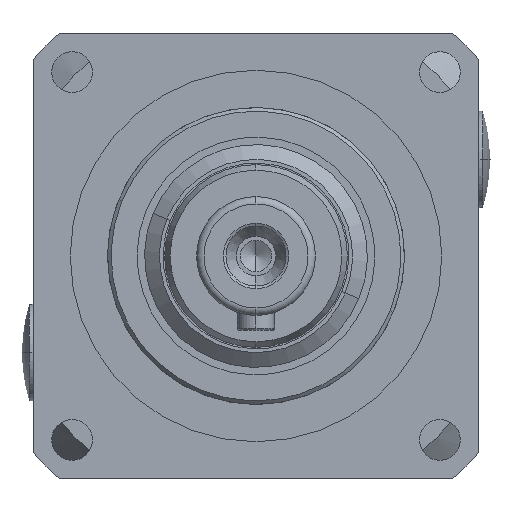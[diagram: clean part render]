
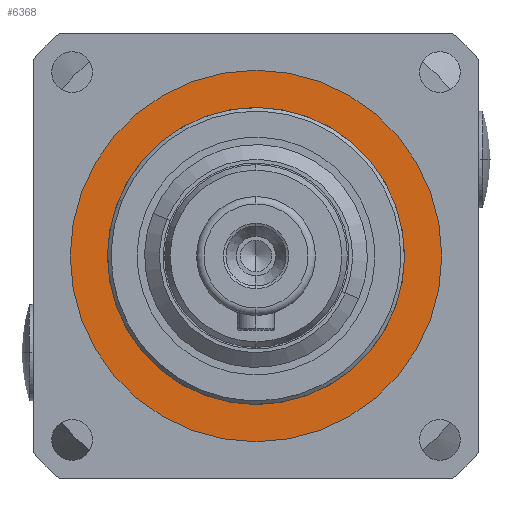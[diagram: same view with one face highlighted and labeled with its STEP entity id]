
A CAD part, left-side view. The second image highlights one B-rep face of the part: STEP entity #6368.
In plain terms, the highlighted planar face has unit normal (-1, 0, 0).
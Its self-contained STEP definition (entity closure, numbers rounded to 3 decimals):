
#5 = FACE_OUTER_BOUND ( 'NONE', #6980, .T. ) ;
#97 = CARTESIAN_POINT ( 'NONE',  ( -42., 0., 20. ) ) ;
#135 = FACE_BOUND ( 'NONE', #10961, .T. ) ;
#530 = DIRECTION ( 'NONE',  ( -1., 0., 0. ) ) ;
#743 = ORIENTED_EDGE ( 'NONE', *, *, #12422, .T. ) ;
#769 = ORIENTED_EDGE ( 'NONE', *, *, #12897, .T. ) ;
#844 = CARTESIAN_POINT ( 'NONE',  ( -42., 0., -25. ) ) ;
#1085 = ORIENTED_EDGE ( 'NONE', *, *, #2111, .F. ) ;
#1150 = ORIENTED_EDGE ( 'NONE', *, *, #10960, .F. ) ;
#1304 = VERTEX_POINT ( 'NONE', #844 ) ;
#1553 = CIRCLE ( 'NONE', #12822, 20. ) ;
#2076 = AXIS2_PLACEMENT_3D ( 'NONE', #11492, #11376, #11346 ) ;
#2111 = EDGE_CURVE ( 'NONE', #10514, #10002, #1553, .T. ) ;
#2175 = AXIS2_PLACEMENT_3D ( 'NONE', #11528, #4712, #12588 ) ;
#2444 = AXIS2_PLACEMENT_3D ( 'NONE', #9478, #2662, #10643 ) ;
#2662 = DIRECTION ( 'NONE',  ( -1., 0., 0. ) ) ;
#2664 = VERTEX_POINT ( 'NONE', #13453 ) ;
#4712 = DIRECTION ( 'NONE',  ( -1., 0., 0. ) ) ;
#5209 = CIRCLE ( 'NONE', #10900, 20. ) ;
#5960 = DIRECTION ( 'NONE',  ( -1., 0., 0. ) ) ;
#6007 = CIRCLE ( 'NONE', #2175, 25. ) ;
#6368 = ADVANCED_FACE ( 'NONE', ( #135, #5 ), #11425, .T. ) ;
#6980 = EDGE_LOOP ( 'NONE', ( #769, #743 ) ) ;
#7209 = CARTESIAN_POINT ( 'NONE',  ( -42., 0., 0. ) ) ;
#7291 = DIRECTION ( 'NONE',  ( 0., 0., 1. ) ) ;
#7665 = CARTESIAN_POINT ( 'NONE',  ( -42., 0., 0. ) ) ;
#8360 = DIRECTION ( 'NONE',  ( 0., 0., 1. ) ) ;
#8914 = CIRCLE ( 'NONE', #2444, 25. ) ;
#9478 = CARTESIAN_POINT ( 'NONE',  ( -42., 0., 0. ) ) ;
#10002 = VERTEX_POINT ( 'NONE', #10039 ) ;
#10039 = CARTESIAN_POINT ( 'NONE',  ( -42., 0., -20. ) ) ;
#10514 = VERTEX_POINT ( 'NONE', #97 ) ;
#10643 = DIRECTION ( 'NONE',  ( 0., 0., 1. ) ) ;
#10900 = AXIS2_PLACEMENT_3D ( 'NONE', #7209, #530, #8360 ) ;
#10960 = EDGE_CURVE ( 'NONE', #10002, #10514, #5209, .T. ) ;
#10961 = EDGE_LOOP ( 'NONE', ( #1085, #1150 ) ) ;
#11346 = DIRECTION ( 'NONE',  ( 0., 0., 1. ) ) ;
#11376 = DIRECTION ( 'NONE',  ( -1., 0., 0. ) ) ;
#11425 = PLANE ( 'NONE',  #2076 ) ;
#11492 = CARTESIAN_POINT ( 'NONE',  ( -42., 0., 0. ) ) ;
#11528 = CARTESIAN_POINT ( 'NONE',  ( -42., 0., 0. ) ) ;
#12422 = EDGE_CURVE ( 'NONE', #2664, #1304, #8914, .T. ) ;
#12588 = DIRECTION ( 'NONE',  ( 0., 0., 1. ) ) ;
#12822 = AXIS2_PLACEMENT_3D ( 'NONE', #7665, #5960, #7291 ) ;
#12897 = EDGE_CURVE ( 'NONE', #1304, #2664, #6007, .T. ) ;
#13453 = CARTESIAN_POINT ( 'NONE',  ( -42., 0., 25. ) ) ;
